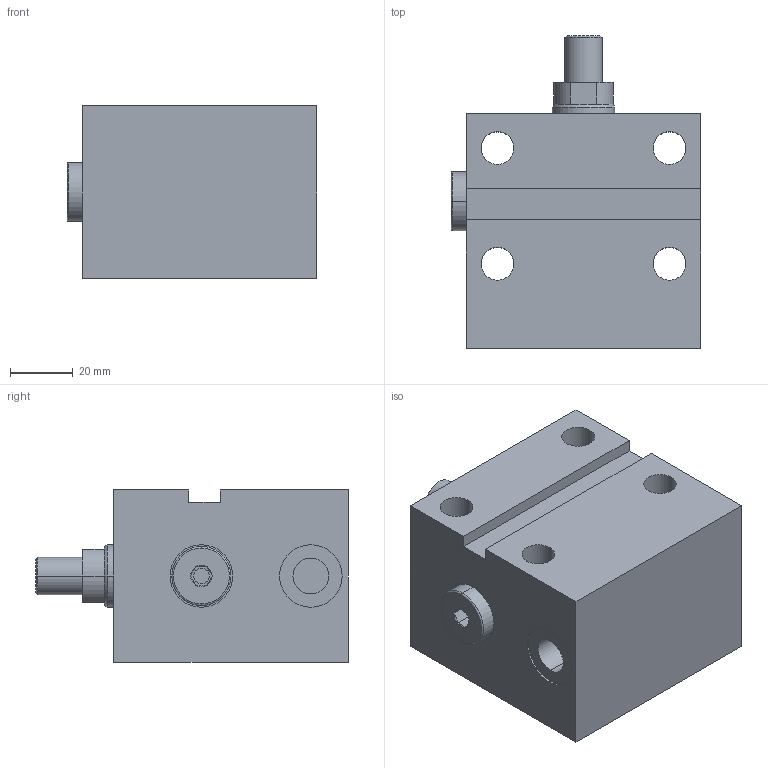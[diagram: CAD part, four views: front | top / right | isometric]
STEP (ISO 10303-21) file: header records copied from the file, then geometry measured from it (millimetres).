
FILE_DESCRIPTION (( 'STEP AP203' ), '1' );
FILE_NAME ('GERMA_Blockzylinder_651-032-010-A.STEP', '2023-08-26T14:48:03', ( '' ), ( '' ), 'SwSTEP 2.0', 'SolidWorks 2016', '' );
FILE_SCHEMA (( 'CONFIG_CONTROL_DESIGN' ));
Length unit declared in the file: millimetre
Products named in the file (3): GERMA_Blockzylinder_651-032-010-A; GH-600-032-ew_GH-651-032-010; Kolben 60x-032_Kolben DU.32-Hub25-AG
Assembly tree (2 placements, depth 2):
  GERMA_Blockzylinder_651-032-010-A
    GH-600-032-ew_GH-651-032-010
    Kolben 60x-032_Kolben DU.32-Hub25-AG
Bounding box: 79.8 x 100 x 55 mm (x, y, z)
Volume: 284618 mm3; surface area: 49381.3 mm2
Topology: 2 solids, 2 shells, 95 faces, 217 edges, 137 vertices
Faces by surface type: cylinder 39, plane 35, cone 19, torus 2
Entity records: 3037 total; most frequent: CARTESIAN_POINT 513, DIRECTION 506, ORIENTED_EDGE 426, EDGE_CURVE 213, AXIS2_PLACEMENT_3D 200, VERTEX_POINT 137, EDGE_LOOP 118, VECTOR 106
